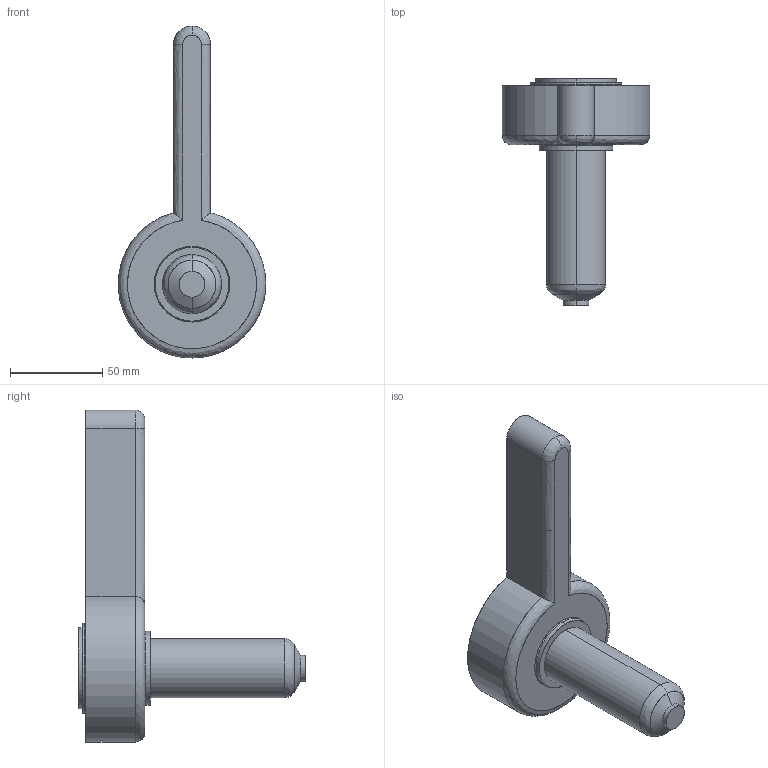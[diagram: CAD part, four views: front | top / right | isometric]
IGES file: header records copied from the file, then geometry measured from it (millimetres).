
Start section: SolidWorks IGES file using analytic representation for surfaces
Global section: file name: C:\Documents and Settings\ws-20\Desktop\TEM\Sede UGBE4502-S-A C-84 L-121 P-0.IGS; native system: SolidWorks 2012; preprocessor: SolidWorks 2012; author: ws-20; date: 120412.155641; units: millimetre
Bounding box: 79.99 x 123.21 x 180 mm (x, y, z)
Surface area: 35956.7 mm2 (no closed solid volume)
Topology: 0 solids, 0 shells, 34 faces, 788 edges, 788 vertices
Faces by surface type: revolution 21, bspline 13
